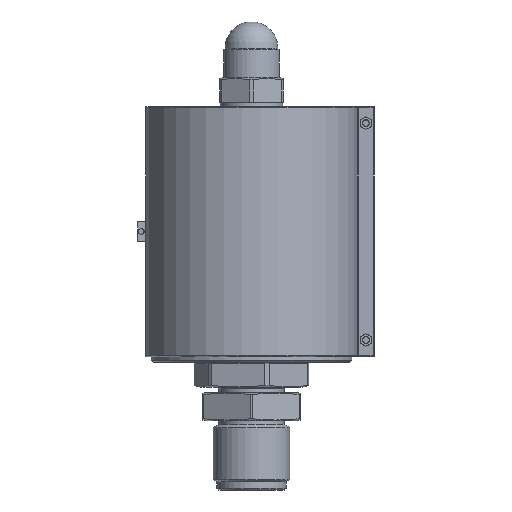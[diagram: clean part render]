
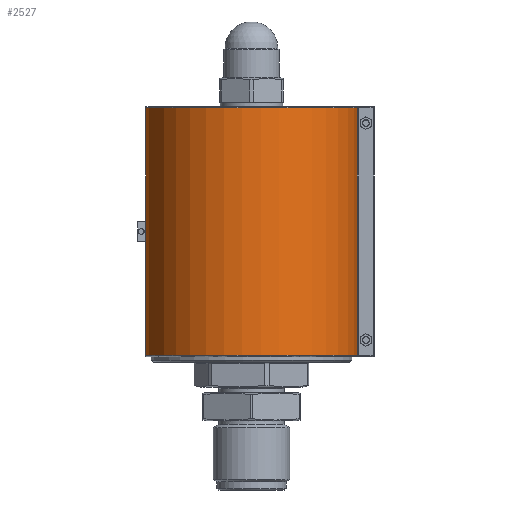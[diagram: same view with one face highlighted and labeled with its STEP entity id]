
A CAD part, left-side view. The second image highlights one B-rep face of the part: STEP entity #2527.
In plain terms, the highlighted cylindrical face has radius 76.5 mm (diameter 153 mm), a partial arc.
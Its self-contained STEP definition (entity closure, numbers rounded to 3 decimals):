
#2527=ADVANCED_FACE('',(#5642,#5643),#5644,.T.);
#5642=FACE_OUTER_BOUND('',#21263,.T.);
#5643=FACE_BOUND('',#21264,.T.);
#5644=CYLINDRICAL_SURFACE('',#21265,76.5);
#21263=EDGE_LOOP('',(#27502,#27503,#27504,#27505));
#21264=EDGE_LOOP('',(#27506,#27507,#27508,#27509));
#21265=AXIS2_PLACEMENT_3D('',#27510,#27511,#27512);
#27502=ORIENTED_EDGE('',*,*,#30206,.T.);
#27503=ORIENTED_EDGE('',*,*,#30228,.T.);
#27504=ORIENTED_EDGE('',*,*,#30219,.T.);
#27505=ORIENTED_EDGE('',*,*,#30214,.T.);
#27506=ORIENTED_EDGE('',*,*,#30232,.T.);
#27507=ORIENTED_EDGE('',*,*,#30233,.T.);
#27508=ORIENTED_EDGE('',*,*,#30234,.T.);
#27509=ORIENTED_EDGE('',*,*,#30235,.T.);
#27510=CARTESIAN_POINT('',(0.0,0.0,-147.5));
#27511=DIRECTION('',(0.0,0.0,1.0));
#27512=DIRECTION('',(1.0,0.0,0.0));
#30206=EDGE_CURVE('',#33526,#33524,#33527,.F.);
#30214=EDGE_CURVE('',#33534,#33526,#33538,.F.);
#30219=EDGE_CURVE('',#33544,#33534,#33545,.F.);
#30228=EDGE_CURVE('',#33524,#33544,#33557,.T.);
#30232=EDGE_CURVE('',#33561,#33562,#33563,.T.);
#30233=EDGE_CURVE('',#33562,#33564,#33565,.T.);
#30234=EDGE_CURVE('',#33564,#33566,#33567,.T.);
#30235=EDGE_CURVE('',#33566,#33561,#33568,.T.);
#33524=VERTEX_POINT('',#39882);
#33526=VERTEX_POINT('',#39895);
#33527=CIRCLE('',#39896,76.5);
#33534=VERTEX_POINT('',#39925);
#33538=LINE('',#39930,#39931);
#33544=VERTEX_POINT('',#39959);
#33545=CIRCLE('',#39960,76.5);
#33557=LINE('',#39995,#39996);
#33561=VERTEX_POINT('',#40011);
#33562=VERTEX_POINT('',#40012);
#33563=CIRCLE('',#40013,76.5);
#33564=VERTEX_POINT('',#40014);
#33565=LINE('',#40015,#40016);
#33566=VERTEX_POINT('',#40017);
#33567=CIRCLE('',#40018,76.5);
#33568=LINE('',#40019,#40020);
#39882=CARTESIAN_POINT('',(-6.91,-76.187,-146.5));
#39895=CARTESIAN_POINT('',(6.91,-76.187,-146.5));
#39896=AXIS2_PLACEMENT_3D('',#42676,#42677,#42678);
#39925=CARTESIAN_POINT('',(6.91,-76.187,31.5));
#39930=CARTESIAN_POINT('',(6.91,-76.187,-147.5));
#39931=VECTOR('',#42686,1.0);
#39959=CARTESIAN_POINT('',(-6.91,-76.187,31.5));
#39960=AXIS2_PLACEMENT_3D('',#42687,#42688,#42689);
#39995=CARTESIAN_POINT('',(-6.91,-76.187,-147.5));
#39996=VECTOR('',#42700,1.0);
#40011=CARTESIAN_POINT('',(8.662,76.008,-64.5));
#40012=CARTESIAN_POINT('',(45.164,61.745,-64.5));
#40013=AXIS2_PLACEMENT_3D('',#42701,#42702,#42703);
#40014=CARTESIAN_POINT('',(45.164,61.745,-50.5));
#40015=CARTESIAN_POINT('',(45.164,61.745,-57.5));
#40016=VECTOR('',#42704,1.0);
#40017=CARTESIAN_POINT('',(8.662,76.008,-50.5));
#40018=AXIS2_PLACEMENT_3D('',#42705,#42706,#42707);
#40019=CARTESIAN_POINT('',(8.662,76.008,-64.5));
#40020=VECTOR('',#42708,1.0);
#42676=CARTESIAN_POINT('',(0.0,0.0,-146.5));
#42677=DIRECTION('',(-0.0,0.0,-1.0));
#42678=DIRECTION('',(-1.0,0.0,0.0));
#42686=DIRECTION('',(0.0,0.0,1.0));
#42687=CARTESIAN_POINT('',(0.0,0.0,31.5));
#42688=DIRECTION('',(0.0,0.0,1.0));
#42689=DIRECTION('',(1.0,0.0,-0.0));
#42700=DIRECTION('',(0.0,0.0,1.0));
#42701=CARTESIAN_POINT('',(0.0,0.,-64.5));
#42702=DIRECTION('',(-0.0,0.0,-1.0));
#42703=DIRECTION('',(-0.367,-0.93,0.0));
#42704=DIRECTION('',(0.0,0.0,1.0));
#42705=CARTESIAN_POINT('',(0.0,0.,-50.5));
#42706=DIRECTION('',(0.0,0.0,1.0));
#42707=DIRECTION('',(-0.367,-0.93,0.0));
#42708=DIRECTION('',(0.,0.,-1.0));
